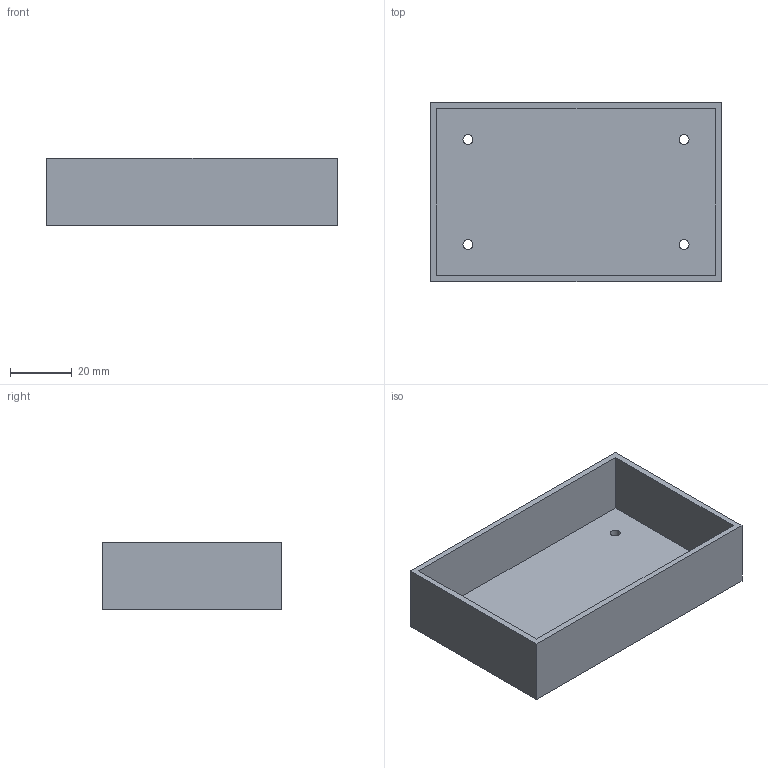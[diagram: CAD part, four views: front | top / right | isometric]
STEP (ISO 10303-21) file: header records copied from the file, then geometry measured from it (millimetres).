
FILE_DESCRIPTION(('Open CASCADE Model'),'2;1');
FILE_NAME('Open CASCADE Shape Model','2026-07-30T21:18:33',('Author'),( 'Open CASCADE'),'Open CASCADE STEP processor 7.9','Open CASCADE 7.9' ,'Unknown');
FILE_SCHEMA(('AUTOMOTIVE_DESIGN { 1 0 10303 214 1 1 1 1 }'));
Length unit declared in the file: millimetre
Products named in the file (1): Open CASCADE STEP translator 7.9 1
Bounding box: 94 x 58 x 22 mm (x, y, z)
Volume: 22679.7 mm3; surface area: 23368.1 mm2
Topology: 1 solids, 1 shells, 15 faces, 36 edges, 24 vertices
Faces by surface type: plane 11, cylinder 4
Full cylindrical faces by diameter (mm): 3.2 x4
Entity records: 924 total; most frequent: CARTESIAN_POINT 156, DIRECTION 140, LINE 84, VECTOR 84, ORIENTED_EDGE 72, PCURVE 72, DEFINITIONAL_REPRESENTATION 72, EDGE_CURVE 36
